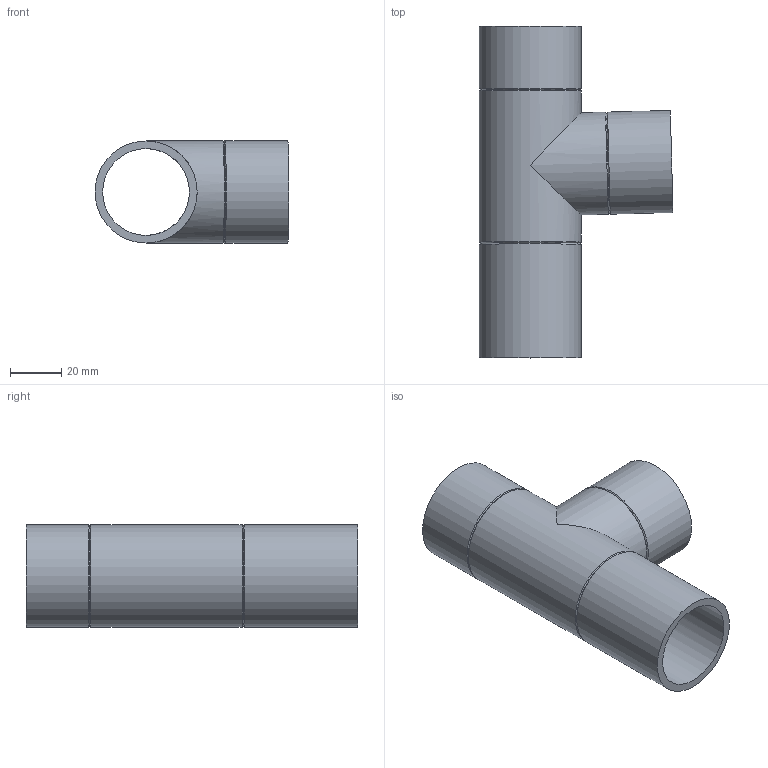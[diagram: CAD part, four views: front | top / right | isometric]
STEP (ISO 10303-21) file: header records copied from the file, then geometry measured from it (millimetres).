
FILE_DESCRIPTION(/* description */ (''),/* implementation_level */ '2;1');
FILE_NAME(/* name */ 'Z:\Geberit\Export\NewStep\360159.stp',/* time_stamp */ '2014-04-01T21:01:48+02:00',/* author */ ('nelson'),/* organization */ (''),/* preprocessor_version */ 'ST-DEVELOPER v15.2',/* originating_system */ 'Autodesk Inventor 2014',/* authorisation */ '');
FILE_SCHEMA (('AUTOMOTIVE_DESIGN { 1 0 10303 214 3 1 1 }'));
Length unit declared in the file: millimetre
Products named in the file (1): 360159
Bounding box: 76 x 130 x 40 mm (x, y, z)
Volume: 56392.2 mm3; surface area: 38777.6 mm2
Topology: 1 solids, 1 shells, 16 faces, 39 edges, 25 vertices
Faces by surface type: cylinder 7, cone 6, plane 3
Full cylindrical faces by diameter (mm): 34 x2, 40 x5
Entity records: 399 total; most frequent: DIRECTION 72, CARTESIAN_POINT 55, ORIENTED_EDGE 38, AXIS2_PLACEMENT_3D 36, EDGE_LOOP 34, FACE_BOUND 22, VERTEX_POINT 19, EDGE_CURVE 19
